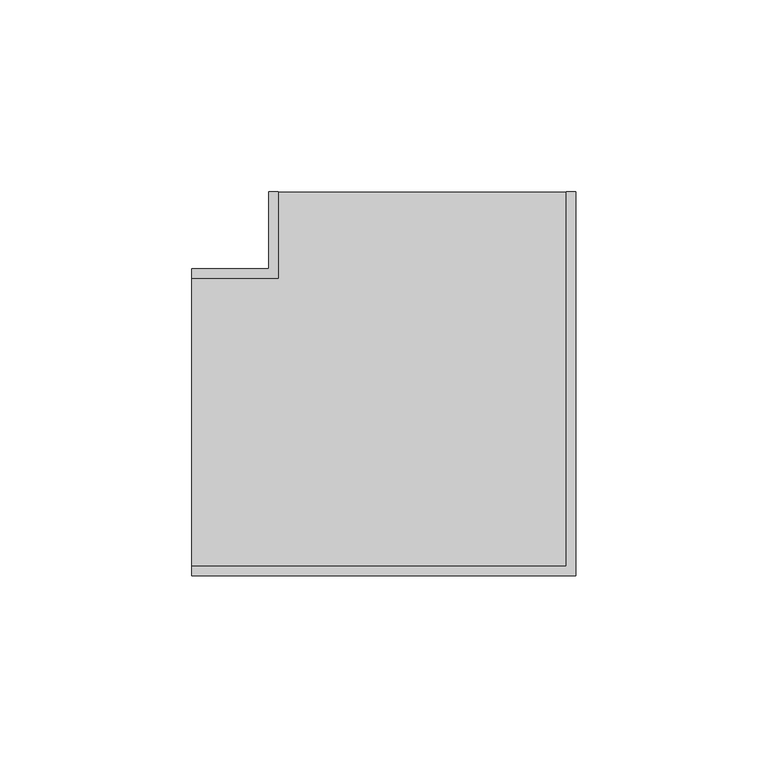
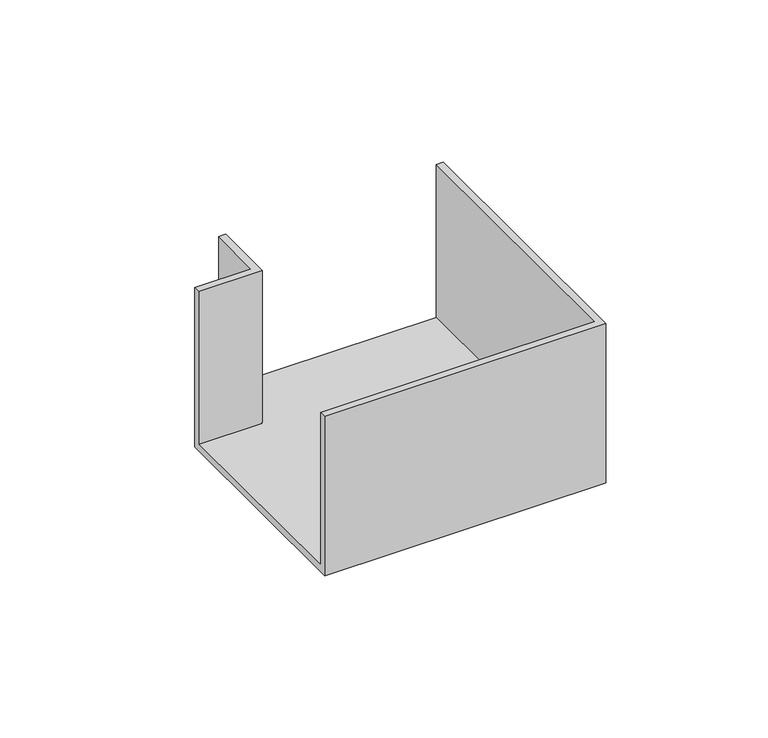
"""IFC4 building model written with IfcOpenShell, lengths in millimetres: cable carrier fitting geometry, КНС_УголПлоский NPAN_ILC_DKC : Угол плоский NPAN_DKC."""

from ifc_helpers import new_model, si_unit, origin, place, context, project, spatial, faceted_brep, source, transform, mapped, element, save


def cable_carrier_fitting_50db2390(model_context):
    return source(origin(), model_context, "Body", "Brep", [
        faceted_brep([(-60.0, 40.0, -30.0), (-60.0, -40.0, -30.0), (-60.0, -40.0, 30.0), (-60.0, -37.5, 30.0), (-60.0, -37.5, -27.5), (-60.0, 37.5, -27.5), (-60.0, 37.5, 30.0), (-60.0, 40.0, 30.0), (-40.0, 40.0, -30.0), (-40.0, 60.0, -30.0), (40.0, 60.0, -30.0), (40.0, -40.0, -30.0), (40.0, -40.0, 30.0), (40.0, 60.0, 30.0), (37.5, 60.0, 30.0), (37.5, -37.5, 30.0), (37.5, -37.5, -27.5), (37.5, 60.0, -27.5), (-37.5, 60.0, -27.5), (-37.5, 37.5, -27.5), (-37.5, 37.5, 30.0), (-37.5, 60.0, 30.0), (-40.0, 60.0, 30.0), (-40.0, 40.0, 30.0)], [[[0, 1, 2, 3, 4, 5, 6, 7]], [[1, 0, 8, 9, 10, 11]], [[2, 1, 11, 12]], [[3, 2, 12, 13, 14, 15]], [[4, 3, 15, 16]], [[5, 4, 16, 17, 18, 19]], [[6, 5, 19, 20]], [[7, 6, 20, 21, 22, 23]], [[0, 7, 23, 8]], [[9, 22, 21, 18, 17, 14, 13, 10]], [[12, 11, 10, 13]], [[16, 15, 14, 17]], [[20, 19, 18, 21]], [[8, 23, 22, 9]]]),
    ])


if __name__ == "__main__":
    model = new_model("IFC4")
    model_context = context("Model", 3, world=origin())
    ifc_project = project(units=[si_unit("LENGTHUNIT", "METRE", prefix="MILLI")], contexts=[model_context])
    site = spatial("IfcSite", under=ifc_project)
    building = spatial("IfcBuilding", under=site)
    placement = place(None, origin())
    cable_carrier_fitting_shape = cable_carrier_fitting_50db2390(model_context)
    element("IfcCableCarrierFitting", 1, ObjectType="КНС_УголПлоский NPAN_ILC_DKC : Угол плоский NPAN_DKC", at=placement, inside=building, context=model_context, shape_type="MappedRepresentation", body=[
        mapped(cable_carrier_fitting_shape, transform((0.0, 0.0, 0.0), x_axis=(1.0, 0.0, 0.0), y_axis=(0.0, 1.0, 0.0), z_axis=(0.0, 0.0, 1.0))),
    ])
    save(model, "model.ifc")
